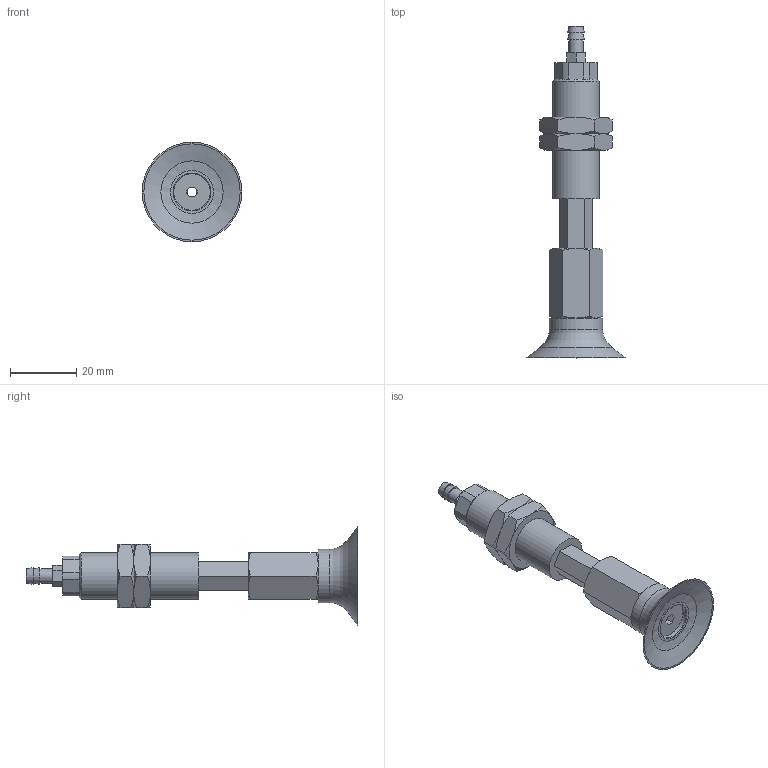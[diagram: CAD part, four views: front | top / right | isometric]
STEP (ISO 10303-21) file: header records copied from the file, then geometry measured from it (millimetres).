
FILE_DESCRIPTION(('STEP AP203'),'1');
FILE_NAME('-T.stp','2025-08-27T03:23:15',(' '),(' '),'Spatial InterOp 3D',' ',' ');
FILE_SCHEMA(('CONFIG_CONTROL_DESIGN'));
Length unit declared in the file: millimetre
Products named in the file (8): BNABPFTH-30-15-※-T; ADAPTER; NAPFTH-30-15-MBODY; TN-PF-30-M6-NAPF; Nut-30-15-h; NAPFTH-30-15-FBODY; BPFG-30-※; T
Assembly tree (8 placements, depth 2):
  BNABPFTH-30-15-※-T
    ADAPTER
    NAPFTH-30-15-MBODY
    TN-PF-30-M6-NAPF
    Nut-30-15-h  x2
    NAPFTH-30-15-FBODY
    BPFG-30-※
    T
Bounding box: 30 x 100 x 30 mm (x, y, z)
Volume: 14644.2 mm3; surface area: 11700.1 mm2
Topology: 8 solids, 8 shells, 157 faces, 337 edges, 206 vertices
Faces by surface type: plane 80, cone 49, cylinder 22, torus 5, bspline 1
Full cylindrical faces by diameter (mm): 3 x4, 4.134 x1, 4.3 x1, 4.917 x1, 5 x1, 6 x2, 11 x2, 12.917 x2, 14 x1, 16 x1
Entity records: 4099 total; most frequent: CARTESIAN_POINT 934, DIRECTION 580, ORIENTED_EDGE 506, EDGE_CURVE 253, AXIS2_PLACEMENT_3D 233, EDGE_LOOP 190, VERTEX_POINT 175, FACE_OUTER_BOUND 155
